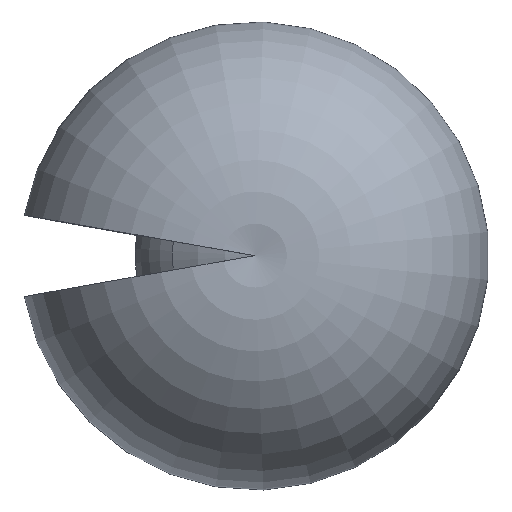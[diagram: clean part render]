
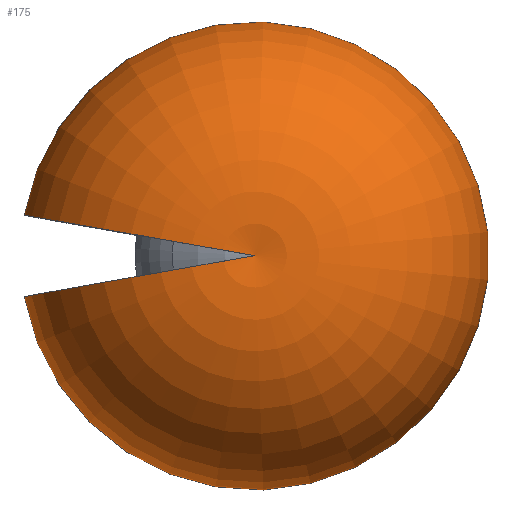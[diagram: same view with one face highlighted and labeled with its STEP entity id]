
A CAD part, top view. The second image highlights one B-rep face of the part: STEP entity #175.
In plain terms, the highlighted toroidal (fillet/blend) face has major radius 690 mm and minor radius 3212.88 mm.
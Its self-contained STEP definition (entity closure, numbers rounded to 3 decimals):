
#4 = CARTESIAN_POINT ( 'NONE',  ( -1761.691, 310.634, -2489.115 ) ) ;
#22 = DIRECTION ( 'NONE',  ( -0.174, -0.985, 0. ) ) ;
#53 = ORIENTED_EDGE ( 'NONE', *, *, #105, .F. ) ;
#62 = EDGE_CURVE ( 'NONE', #422, #452, #317, .T. ) ;
#95 = CARTESIAN_POINT ( 'NONE',  ( -679.517, -119.817, 530. ) ) ;
#98 = CARTESIAN_POINT ( 'NONE',  ( -1761.691, -310.634, -2489.115 ) ) ;
#105 = EDGE_CURVE ( 'NONE', #374, #422, #439, .T. ) ;
#115 = DIRECTION ( 'NONE',  ( -1., 0., 0. ) ) ;
#159 = AXIS2_PLACEMENT_3D ( 'NONE', #397, #524, #115 ) ;
#169 = AXIS2_PLACEMENT_3D ( 'NONE', #95, #424, #382 ) ;
#175 = ADVANCED_FACE ( 'NONE', ( #529 ), #306, .T. ) ;
#200 = AXIS2_PLACEMENT_3D ( 'NONE', #372, #588, #278 ) ;
#278 = DIRECTION ( 'NONE',  ( -1., 0., 0. ) ) ;
#306 = TOROIDAL_SURFACE ( 'NONE', #159, 690., 3212.875 ) ;
#317 = CIRCLE ( 'NONE', #200, 1788.868 ) ;
#319 = CIRCLE ( 'NONE', #169, 3212.875 ) ;
#337 = CARTESIAN_POINT ( 'NONE',  ( -679.517, 119.817, 530. ) ) ;
#372 = CARTESIAN_POINT ( 'NONE',  ( 0., 0., -2489.115 ) ) ;
#374 = VERTEX_POINT ( 'NONE', #379 ) ;
#379 = CARTESIAN_POINT ( 'NONE',  ( 0., 0., 3667.908 ) ) ;
#382 = DIRECTION ( 'NONE',  ( 0., 0., 1. ) ) ;
#393 = EDGE_LOOP ( 'NONE', ( #560, #53, #469 ) ) ;
#397 = CARTESIAN_POINT ( 'NONE',  ( 0., 0., 530. ) ) ;
#417 = EDGE_CURVE ( 'NONE', #374, #452, #319, .T. ) ;
#422 = VERTEX_POINT ( 'NONE', #4 ) ;
#424 = DIRECTION ( 'NONE',  ( 0.174, -0.985, 0. ) ) ;
#439 = CIRCLE ( 'NONE', #490, 3212.875 ) ;
#452 = VERTEX_POINT ( 'NONE', #98 ) ;
#469 = ORIENTED_EDGE ( 'NONE', *, *, #417, .T. ) ;
#490 = AXIS2_PLACEMENT_3D ( 'NONE', #337, #22, #526 ) ;
#524 = DIRECTION ( 'NONE',  ( 0., 0., -1. ) ) ;
#526 = DIRECTION ( 'NONE',  ( 0., 0., 1. ) ) ;
#529 = FACE_OUTER_BOUND ( 'NONE', #393, .T. ) ;
#560 = ORIENTED_EDGE ( 'NONE', *, *, #62, .F. ) ;
#588 = DIRECTION ( 'NONE',  ( 0., 0., -1. ) ) ;
